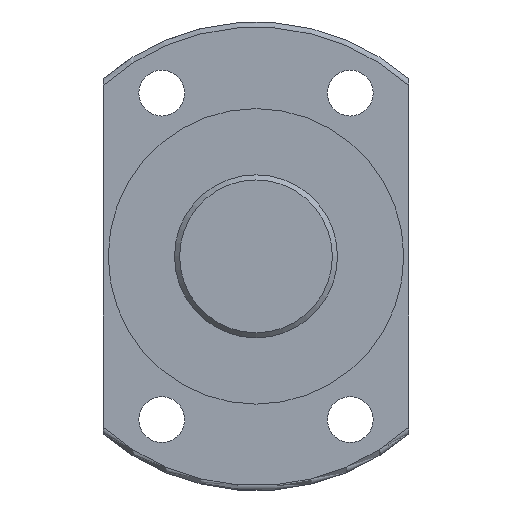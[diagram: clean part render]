
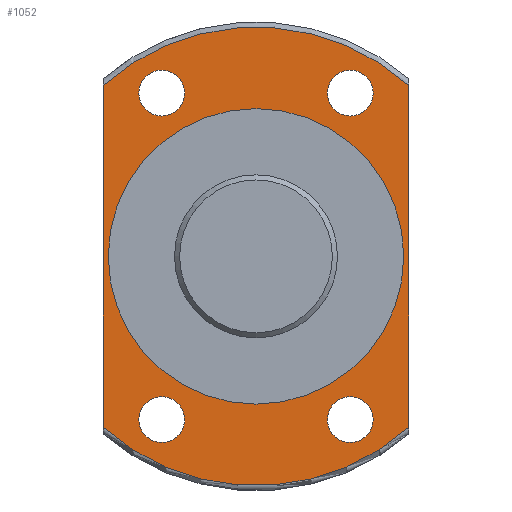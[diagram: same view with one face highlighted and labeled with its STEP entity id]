
A CAD part, left-side view. The second image highlights one B-rep face of the part: STEP entity #1052.
In plain terms, the highlighted planar face has unit normal (-1, 0, 0).
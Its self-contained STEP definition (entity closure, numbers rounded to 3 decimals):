
#22 = ORIENTED_EDGE ( 'NONE', *, *, #743, .F. ) ;
#35 = DIRECTION ( 'NONE',  ( 0., 1., 0. ) ) ;
#59 = AXIS2_PLACEMENT_3D ( 'NONE', #533, #1445, #2135 ) ;
#80 = CARTESIAN_POINT ( 'NONE',  ( 151.804, 83.292, 0. ) ) ;
#160 = CIRCLE ( 'NONE', #1403, 29. ) ;
#197 = EDGE_CURVE ( 'NONE', #2245, #2245, #160, .T. ) ;
#212 = EDGE_CURVE ( 'NONE', #2054, #2054, #2668, .T. ) ;
#214 = AXIS2_PLACEMENT_3D ( 'NONE', #2092, #506, #1893 ) ;
#245 = CARTESIAN_POINT ( 'NONE',  ( 151.804, 112.292, 0. ) ) ;
#260 = FACE_BOUND ( 'NONE', #772, .T. ) ;
#268 = CARTESIAN_POINT ( 'NONE',  ( 151.804, 64.792, 32.043 ) ) ;
#281 = DIRECTION ( 'NONE',  ( 0., 1., 0. ) ) ;
#399 = LINE ( 'NONE', #2205, #1068 ) ;
#495 = CIRCLE ( 'NONE', #834, 4.5 ) ;
#506 = DIRECTION ( 'NONE',  ( 1., 0., 0. ) ) ;
#528 = DIRECTION ( 'NONE',  ( 0., 1., 0. ) ) ;
#533 = CARTESIAN_POINT ( 'NONE',  ( 151.804, 101.792, 32.043 ) ) ;
#551 = VERTEX_POINT ( 'NONE', #2961 ) ;
#594 = CARTESIAN_POINT ( 'NONE',  ( 151.804, 69.292, -32.043 ) ) ;
#640 = EDGE_CURVE ( 'NONE', #1595, #1595, #1926, .T. ) ;
#660 = DIRECTION ( 'NONE',  ( 1., 0., 0. ) ) ;
#672 = CARTESIAN_POINT ( 'NONE',  ( 151.804, 69.292, 32.043 ) ) ;
#694 = EDGE_CURVE ( 'NONE', #2737, #2737, #495, .T. ) ;
#718 = EDGE_LOOP ( 'NONE', ( #2817 ) ) ;
#743 = EDGE_CURVE ( 'NONE', #1401, #1540, #953, .T. ) ;
#757 = EDGE_LOOP ( 'NONE', ( #2699, #1126, #1922, #22 ) ) ;
#772 = EDGE_LOOP ( 'NONE', ( #1702 ) ) ;
#785 = CIRCLE ( 'NONE', #1160, 45. ) ;
#834 = AXIS2_PLACEMENT_3D ( 'NONE', #268, #2378, #281 ) ;
#878 = ORIENTED_EDGE ( 'NONE', *, *, #694, .T. ) ;
#925 = CIRCLE ( 'NONE', #1315, 4.5 ) ;
#953 = LINE ( 'NONE', #1868, #2317 ) ;
#1032 = EDGE_CURVE ( 'NONE', #1540, #551, #785, .T. ) ;
#1052 = ADVANCED_FACE ( 'NONE', ( #260, #1860, #1833, #1849, #1124, #1597 ), #2042, .F. ) ;
#1068 = VECTOR ( 'NONE', #2469, 1000. ) ;
#1085 = EDGE_LOOP ( 'NONE', ( #878 ) ) ;
#1124 = FACE_BOUND ( 'NONE', #1615, .T. ) ;
#1126 = ORIENTED_EDGE ( 'NONE', *, *, #2445, .T. ) ;
#1160 = AXIS2_PLACEMENT_3D ( 'NONE', #1181, #2511, #1580 ) ;
#1168 = DIRECTION ( 'NONE',  ( 1., 0., 0. ) ) ;
#1181 = CARTESIAN_POINT ( 'NONE',  ( 151.804, 83.292, 0. ) ) ;
#1315 = AXIS2_PLACEMENT_3D ( 'NONE', #2217, #660, #1386 ) ;
#1369 = CARTESIAN_POINT ( 'NONE',  ( 151.804, 106.292, -32.043 ) ) ;
#1386 = DIRECTION ( 'NONE',  ( 0., 1., 0. ) ) ;
#1401 = VERTEX_POINT ( 'NONE', #2615 ) ;
#1403 = AXIS2_PLACEMENT_3D ( 'NONE', #80, #2168, #2874 ) ;
#1445 = DIRECTION ( 'NONE',  ( 1., 0., 0. ) ) ;
#1519 = VERTEX_POINT ( 'NONE', #594 ) ;
#1540 = VERTEX_POINT ( 'NONE', #2827 ) ;
#1565 = CARTESIAN_POINT ( 'NONE',  ( 151.804, 112.292, 0. ) ) ;
#1580 = DIRECTION ( 'NONE',  ( 0., 1., 0. ) ) ;
#1595 = VERTEX_POINT ( 'NONE', #1369 ) ;
#1597 = FACE_OUTER_BOUND ( 'NONE', #757, .T. ) ;
#1615 = EDGE_LOOP ( 'NONE', ( #2059 ) ) ;
#1702 = ORIENTED_EDGE ( 'NONE', *, *, #197, .F. ) ;
#1746 = CIRCLE ( 'NONE', #214, 45. ) ;
#1803 = CARTESIAN_POINT ( 'NONE',  ( 151.804, 106.292, 32.043 ) ) ;
#1808 = VERTEX_POINT ( 'NONE', #2968 ) ;
#1833 = FACE_BOUND ( 'NONE', #1085, .T. ) ;
#1849 = FACE_BOUND ( 'NONE', #2905, .T. ) ;
#1860 = FACE_BOUND ( 'NONE', #718, .T. ) ;
#1868 = CARTESIAN_POINT ( 'NONE',  ( 151.804, 53.292, 0. ) ) ;
#1893 = DIRECTION ( 'NONE',  ( 0., 1., 0. ) ) ;
#1922 = ORIENTED_EDGE ( 'NONE', *, *, #1032, .F. ) ;
#1926 = CIRCLE ( 'NONE', #2120, 4.5 ) ;
#2042 = PLANE ( 'NONE',  #2179 ) ;
#2054 = VERTEX_POINT ( 'NONE', #1803 ) ;
#2059 = ORIENTED_EDGE ( 'NONE', *, *, #640, .T. ) ;
#2092 = CARTESIAN_POINT ( 'NONE',  ( 151.804, 83.292, 0. ) ) ;
#2120 = AXIS2_PLACEMENT_3D ( 'NONE', #2332, #2624, #528 ) ;
#2135 = DIRECTION ( 'NONE',  ( 0., 1., 0. ) ) ;
#2144 = DIRECTION ( 'NONE',  ( 0., 0., -1. ) ) ;
#2168 = DIRECTION ( 'NONE',  ( -1., 0., 0. ) ) ;
#2179 = AXIS2_PLACEMENT_3D ( 'NONE', #245, #1168, #35 ) ;
#2205 = CARTESIAN_POINT ( 'NONE',  ( 151.804, 113.292, 0. ) ) ;
#2217 = CARTESIAN_POINT ( 'NONE',  ( 151.804, 64.792, -32.043 ) ) ;
#2245 = VERTEX_POINT ( 'NONE', #1565 ) ;
#2248 = ORIENTED_EDGE ( 'NONE', *, *, #2667, .T. ) ;
#2317 = VECTOR ( 'NONE', #2144, 1000. ) ;
#2332 = CARTESIAN_POINT ( 'NONE',  ( 151.804, 101.792, -32.043 ) ) ;
#2378 = DIRECTION ( 'NONE',  ( 1., 0., 0. ) ) ;
#2385 = EDGE_CURVE ( 'NONE', #1808, #1401, #1746, .T. ) ;
#2445 = EDGE_CURVE ( 'NONE', #1808, #551, #399, .T. ) ;
#2469 = DIRECTION ( 'NONE',  ( 0., 0., -1. ) ) ;
#2511 = DIRECTION ( 'NONE',  ( 1., 0., 0. ) ) ;
#2615 = CARTESIAN_POINT ( 'NONE',  ( 151.804, 53.292, 33.541 ) ) ;
#2624 = DIRECTION ( 'NONE',  ( 1., 0., 0. ) ) ;
#2667 = EDGE_CURVE ( 'NONE', #1519, #1519, #925, .T. ) ;
#2668 = CIRCLE ( 'NONE', #59, 4.5 ) ;
#2699 = ORIENTED_EDGE ( 'NONE', *, *, #2385, .F. ) ;
#2737 = VERTEX_POINT ( 'NONE', #672 ) ;
#2817 = ORIENTED_EDGE ( 'NONE', *, *, #212, .T. ) ;
#2827 = CARTESIAN_POINT ( 'NONE',  ( 151.804, 53.292, -33.541 ) ) ;
#2874 = DIRECTION ( 'NONE',  ( 0., 1., 0. ) ) ;
#2905 = EDGE_LOOP ( 'NONE', ( #2248 ) ) ;
#2961 = CARTESIAN_POINT ( 'NONE',  ( 151.804, 113.292, -33.541 ) ) ;
#2968 = CARTESIAN_POINT ( 'NONE',  ( 151.804, 113.292, 33.541 ) ) ;
